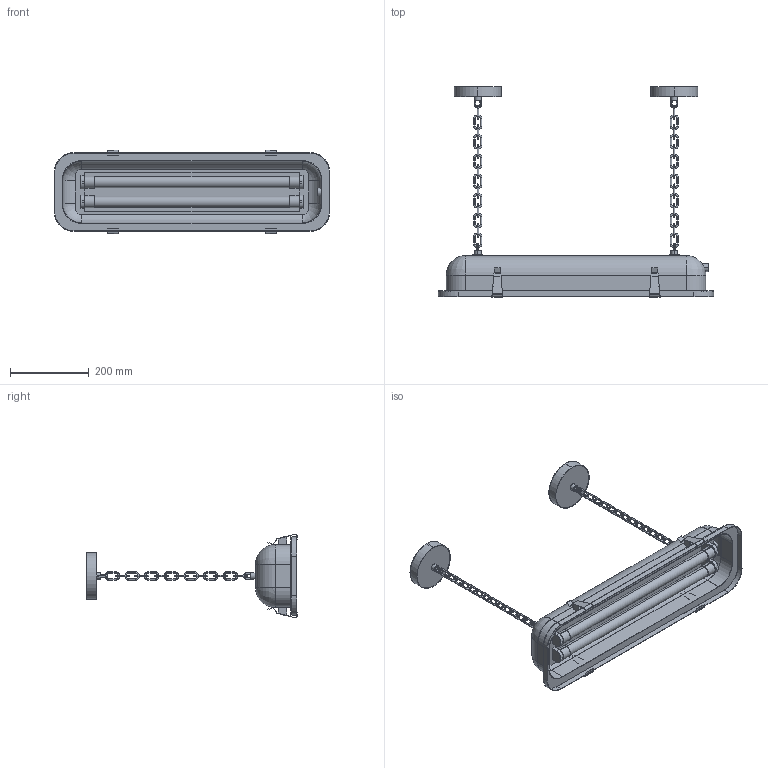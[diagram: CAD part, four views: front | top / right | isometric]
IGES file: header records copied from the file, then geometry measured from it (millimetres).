
Start section: SolidWorks IGES file using analytic representation for surfaces
Global section: file name: F:\燠隴矨\3D\2025-10\Gta Pendant Light-L70cm.IGS,15; native system: HSolidWorks 2022; preprocessor: SolidWorks 2022; author: MyPC; date: 251003.101518; units: millimetre
Bounding box: 700 x 535.14 x 212.64 mm (x, y, z)
Surface area: 999064.5 mm2 (no closed solid volume)
Topology: 0 solids, 0 shells, 862 faces, 8432 edges, 8431 vertices
Faces by surface type: bspline 444, revolution 418
